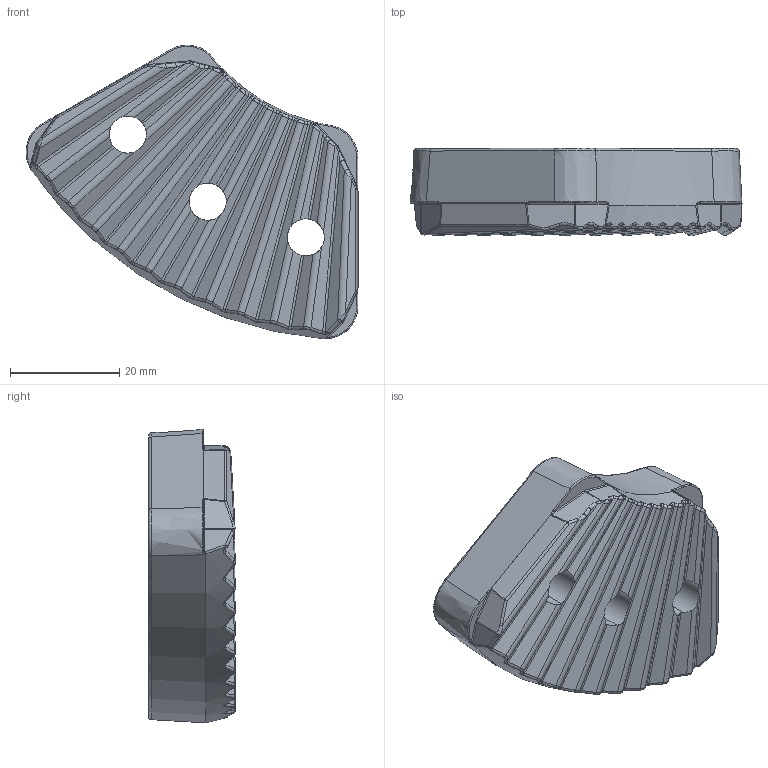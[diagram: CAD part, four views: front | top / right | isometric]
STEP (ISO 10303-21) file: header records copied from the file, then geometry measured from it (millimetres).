
FILE_DESCRIPTION (( 'STEP AP214' ), '1' );
FILE_NAME ('10125V000_Sperrelement_Index_2.STEP', '2014-07-11T09:05:16', ( 'Admin' ), ( '' ), 'SwSTEP 2.0', 'SolidWorks 2014', '' );
FILE_SCHEMA (( 'AUTOMOTIVE_DESIGN' ));
Length unit declared in the file: millimetre
Products named in the file (1): 10125V000_Sperrelement_Index_2
Bounding box: 60.75 x 15.91 x 53.73 mm (x, y, z)
Volume: 29132 mm3; surface area: 7723.5 mm2
Topology: 1 solids, 1 shells, 385 faces, 932 edges, 556 vertices
Faces by surface type: bspline 195, cylinder 92, plane 69, torus 13, sphere 12, cone 4
Entity records: 16742 total; most frequent: CARTESIAN_POINT 9183, ORIENTED_EDGE 1864, DIRECTION 1151, EDGE_CURVE 932, VERTEX_POINT 556, AXIS2_PLACEMENT_3D 448, EDGE_LOOP 398, ADVANCED_FACE 385
